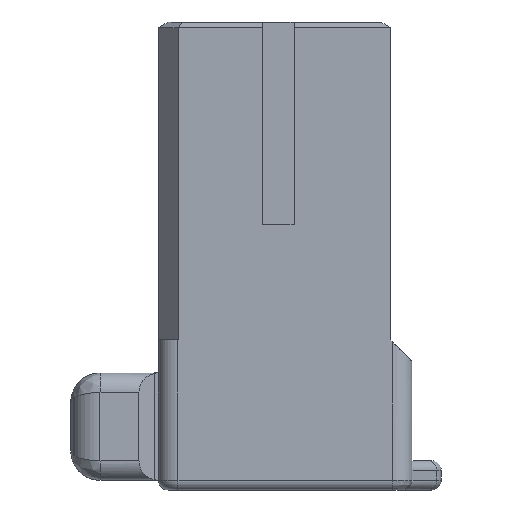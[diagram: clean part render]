
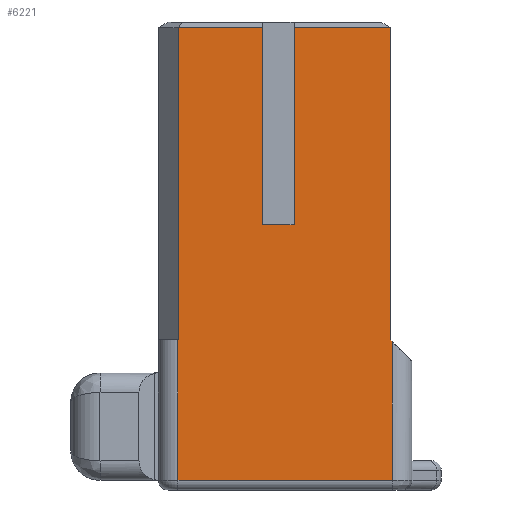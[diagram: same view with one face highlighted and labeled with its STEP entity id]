
A CAD part, left-side view. The second image highlights one B-rep face of the part: STEP entity #6221.
In plain terms, the highlighted planar face has unit normal (-1, 0, 0).
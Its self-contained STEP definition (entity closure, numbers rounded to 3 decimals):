
#2119=DIRECTION('',(0.,1.,0.));
#2120=VECTOR('',#2119,11.);
#2121=CARTESIAN_POINT('',(-10.,-5.875,-23.5));
#2122=LINE('',#2121,#2120);
#2123=DIRECTION('',(0.,0.,-1.));
#2124=VECTOR('',#2123,7.2);
#2125=CARTESIAN_POINT('',(-10.,5.125,-16.3));
#2126=LINE('',#2125,#2124);
#2127=DIRECTION('',(0.,-1.,0.));
#2128=VECTOR('',#2127,0.007);
#2129=CARTESIAN_POINT('',(-10.,5.125,-16.3));
#2130=LINE('',#2129,#2128);
#2131=DIRECTION('',(0.,0.,-1.));
#2132=VECTOR('',#2131,16.011);
#2133=CARTESIAN_POINT('',(-10.,5.118,-0.289));
#2134=LINE('',#2133,#2132);
#2135=DIRECTION('',(0.,-1.,0.));
#2136=VECTOR('',#2135,4.343);
#2137=CARTESIAN_POINT('',(-10.,5.118,-0.289));
#2138=LINE('',#2137,#2136);
#2139=DIRECTION('',(0.,0.,-1.));
#2140=VECTOR('',#2139,10.111);
#2141=CARTESIAN_POINT('',(-10.,0.775,-0.289));
#2142=LINE('',#2141,#2140);
#2143=DIRECTION('',(0.,1.,0.));
#2144=VECTOR('',#2143,1.6);
#2145=CARTESIAN_POINT('',(-10.,-0.825,-10.4));
#2146=LINE('',#2145,#2144);
#2147=DIRECTION('',(0.,0.,-1.));
#2148=VECTOR('',#2147,10.111);
#2149=CARTESIAN_POINT('',(-10.,-0.825,-0.289));
#2150=LINE('',#2149,#2148);
#2151=DIRECTION('',(0.,-1.,0.));
#2152=VECTOR('',#2151,4.95);
#2153=CARTESIAN_POINT('',(-10.,-0.825,-0.289));
#2154=LINE('',#2153,#2152);
#2155=DIRECTION('',(0.,0.,-1.));
#2156=VECTOR('',#2155,16.011);
#2157=CARTESIAN_POINT('',(-10.,-5.775,-0.289));
#2158=LINE('',#2157,#2156);
#2159=DIRECTION('',(0.,-0.707,-0.707));
#2160=VECTOR('',#2159,0.141);
#2161=CARTESIAN_POINT('',(-10.,-5.775,-16.3));
#2162=LINE('',#2161,#2160);
#2163=DIRECTION('',(0.,0.,-1.));
#2164=VECTOR('',#2163,7.1);
#2165=CARTESIAN_POINT('',(-10.,-5.875,-16.4));
#2166=LINE('',#2165,#2164);
#2716=CARTESIAN_POINT('',(-10.,-5.775,-16.3));
#2717=VERTEX_POINT('',#2716);
#2864=CARTESIAN_POINT('',(-10.,-0.825,-10.4));
#2865=CARTESIAN_POINT('',(-10.,0.775,-10.4));
#2866=VERTEX_POINT('',#2864);
#2867=VERTEX_POINT('',#2865);
#2884=CARTESIAN_POINT('',(-10.,5.118,-16.3));
#2886=VERTEX_POINT('',#2884);
#2945=CARTESIAN_POINT('',(-10.,-5.875,-23.5));
#2946=CARTESIAN_POINT('',(-10.,5.125,-23.5));
#2947=VERTEX_POINT('',#2945);
#2948=VERTEX_POINT('',#2946);
#3154=CARTESIAN_POINT('',(-10.,0.775,-0.289));
#3156=VERTEX_POINT('',#3154);
#3157=CARTESIAN_POINT('',(-10.,5.118,-0.289));
#3158=VERTEX_POINT('',#3157);
#3169=CARTESIAN_POINT('',(-10.,-0.825,-0.289));
#3171=VERTEX_POINT('',#3169);
#3175=CARTESIAN_POINT('',(-10.,-5.775,-0.289));
#3176=VERTEX_POINT('',#3175);
#3209=CARTESIAN_POINT('',(-10.,-5.875,-16.4));
#3210=VERTEX_POINT('',#3209);
#3216=CARTESIAN_POINT('',(-10.,5.125,-16.3));
#3217=VERTEX_POINT('',#3216);
#6197=CARTESIAN_POINT('',(-10.,6.125,0.));
#6198=DIRECTION('',(-1.,0.,0.));
#6199=DIRECTION('',(0.,-1.,0.));
#6200=AXIS2_PLACEMENT_3D('',#6197,#6198,#6199);
#6201=PLANE('',#6200);
#6203=ORIENTED_EDGE('',*,*,#6202,.T.);
#6204=ORIENTED_EDGE('',*,*,#5218,.F.);
#6205=ORIENTED_EDGE('',*,*,#5250,.T.);
#6207=ORIENTED_EDGE('',*,*,#6206,.F.);
#6209=ORIENTED_EDGE('',*,*,#6208,.T.);
#6211=ORIENTED_EDGE('',*,*,#6210,.T.);
#6213=ORIENTED_EDGE('',*,*,#6212,.F.);
#6214=ORIENTED_EDGE('',*,*,#6187,.F.);
#6215=ORIENTED_EDGE('',*,*,#6176,.T.);
#6216=ORIENTED_EDGE('',*,*,#6134,.T.);
#6217=ORIENTED_EDGE('',*,*,#5277,.T.);
#6218=ORIENTED_EDGE('',*,*,#5300,.T.);
#6219=EDGE_LOOP('',(#6203,#6204,#6205,#6207,#6209,#6211,#6213,#6214,#6215,#6216,
#6217,#6218));
#6220=FACE_OUTER_BOUND('',#6219,.F.);
#5218=EDGE_CURVE('',#3217,#2948,#2126,.T.);
#5250=EDGE_CURVE('',#3217,#2886,#2130,.T.);
#5277=EDGE_CURVE('',#2717,#3210,#2162,.T.);
#5300=EDGE_CURVE('',#3210,#2947,#2166,.T.);
#6134=EDGE_CURVE('',#3176,#2717,#2158,.T.);
#6176=EDGE_CURVE('',#3171,#3176,#2154,.T.);
#6187=EDGE_CURVE('',#3171,#2866,#2150,.T.);
#6202=EDGE_CURVE('',#2947,#2948,#2122,.T.);
#6206=EDGE_CURVE('',#3158,#2886,#2134,.T.);
#6208=EDGE_CURVE('',#3158,#3156,#2138,.T.);
#6210=EDGE_CURVE('',#3156,#2867,#2142,.T.);
#6212=EDGE_CURVE('',#2866,#2867,#2146,.T.);
#6221=ADVANCED_FACE('',(#6220),#6201,.T.);
